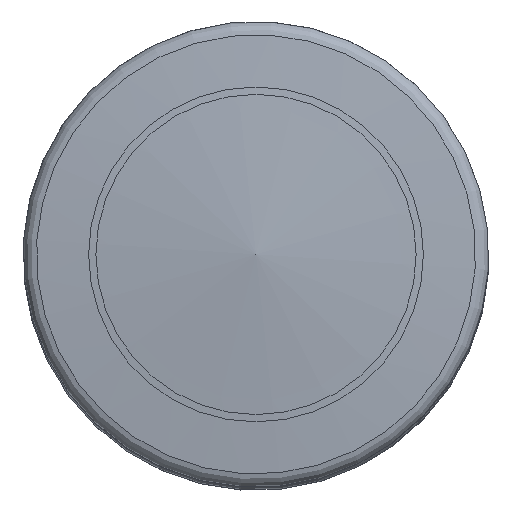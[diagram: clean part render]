
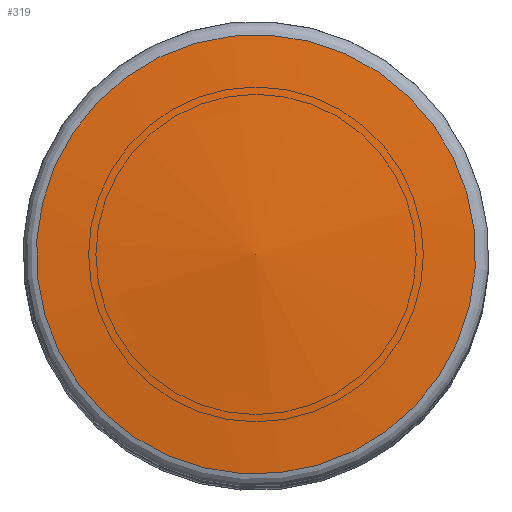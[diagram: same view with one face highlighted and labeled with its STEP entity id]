
A CAD part, top view. The second image highlights one B-rep face of the part: STEP entity #319.
In plain terms, the highlighted conical face has half-angle 85 degrees and reference radius 8 mm.
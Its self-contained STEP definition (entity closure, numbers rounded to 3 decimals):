
#303=CARTESIAN_POINT('',(0.,0.,852.7));
#304=DIRECTION('',(0.,0.,-1.0));
#305=DIRECTION('',(-0.96,-0.279,0.));
#306=AXIS2_PLACEMENT_3D('',#303,#304,#305);
#307=CONICAL_SURFACE('',#306,8.,85.0);
#308=CARTESIAN_POINT('',(-14.487,-4.213,852.08));
#309=VERTEX_POINT('',#308);
#310=CARTESIAN_POINT('',(0.,0.,852.08));
#311=DIRECTION('',(0.,0.,-1.0));
#312=DIRECTION('',(0.96,0.279,0.));
#313=AXIS2_PLACEMENT_3D('',#310,#311,#312);
#314=CIRCLE('',#313,15.087);
#315=EDGE_CURVE('',#309,#309,#314,.T.);
#316=ORIENTED_EDGE('',*,*,#315,.F.);
#317=EDGE_LOOP('',(#316));
#318=FACE_OUTER_BOUND('',#317,.T.);
#319=ADVANCED_FACE('',(#318),#307,.T.);
